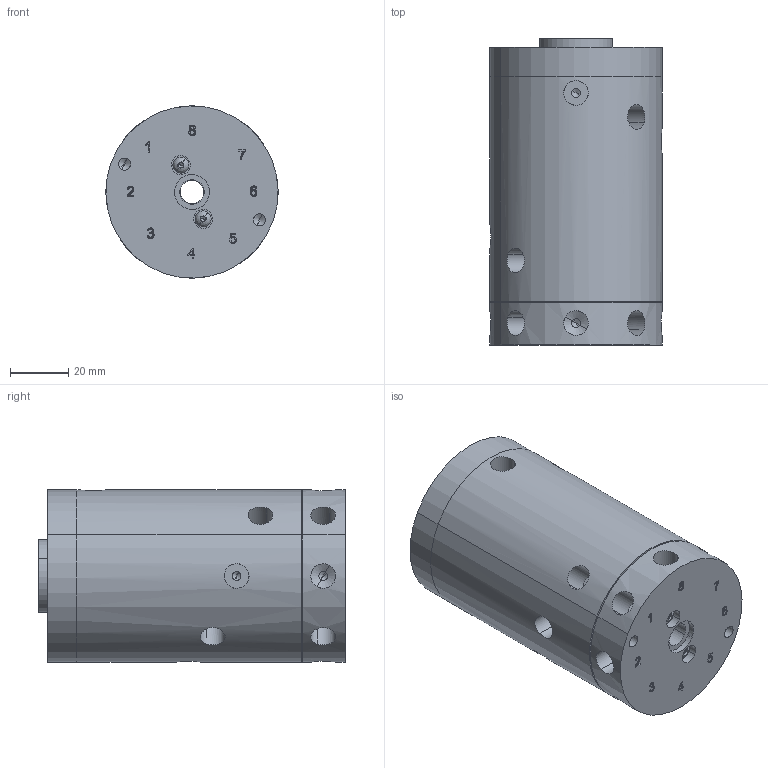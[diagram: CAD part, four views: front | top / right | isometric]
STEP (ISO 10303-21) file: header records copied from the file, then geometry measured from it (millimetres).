
FILE_DESCRIPTION(('CATIA V5 STEP Exchange'),'2;1');
FILE_NAME('\\kjf-102\KJF_TC\Hydraulic_Clamp\Standard\ROTARY\AIR\RTCH-0808AH\RTCH-0808AH_-.stp','2025-07-07T07:42:40+00:00',('none'),('none'),'CATIA Version 5 Release 19 SP 6 (IN-10)','CATIA V5 STEP AP203','none');
FILE_SCHEMA(('CONFIG_CONTROL_DESIGN'));
Length unit declared in the file: millimetre
Products named in the file (1): RTCH-0808AH_-
Assembly tree (10 placements, depth 2):
  RTCH-0808AH_-
    #58
    #2554
    #3813
    #4119
    #52079
    #53022  x2
    #54624
    #55254  x2
Bounding box: 59 x 105 x 59 mm (x, y, z)
Volume: 254473.4 mm3; surface area: 82190.5 mm2
Topology: 72 solids, 72 shells, 1915 faces, 5499 edges, 3478 vertices
Faces by surface type: plane 1427, cylinder 222, sphere 120, cone 114, torus 28, revolution 4
Entity records: 55976 total; most frequent: CARTESIAN_POINT 10781, ORIENTED_EDGE 9822, DIRECTION 8085, EDGE_CURVE 4911, VECTOR 4387, LINE 4387, VERTEX_POINT 3257, AXIS2_PLACEMENT_3D 2093
